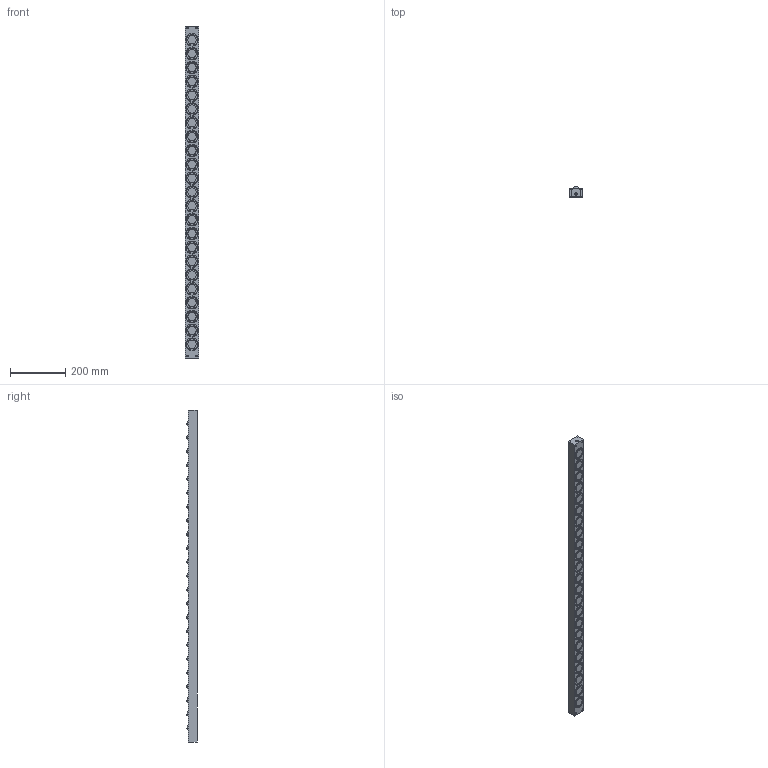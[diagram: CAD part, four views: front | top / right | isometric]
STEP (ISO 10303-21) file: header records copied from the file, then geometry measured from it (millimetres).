
FILE_DESCRIPTION (( 'STEP AP203' ), '1' );
FILE_NAME ('PVL55SL-23.STEP', '2016-02-18T07:25:28', ( '' ), ( '' ), 'SwSTEP 2.0', 'SolidWorks 2013', '' );
FILE_SCHEMA (( 'CONFIG_CONTROL_DESIGN' ));
Length unit declared in the file: millimetre
Products named in the file (1): PVL55SL-23
Bounding box: 49 x 38 x 1200 mm (x, y, z)
Volume: 1856759.2 mm3; surface area: 260957.4 mm2
Topology: 1 solids, 1 shells, 930 faces, 2307 edges, 1544 vertices
Faces by surface type: cylinder 616, plane 264, sphere 46, cone 4
Entity records: 28564 total; most frequent: DIRECTION 5633, CARTESIAN_POINT 4780, ORIENTED_EDGE 4610, AXIS2_PLACEMENT_3D 2397, EDGE_CURVE 2305, VERTEX_POINT 1544, CIRCLE 1466, EDGE_LOOP 1105
